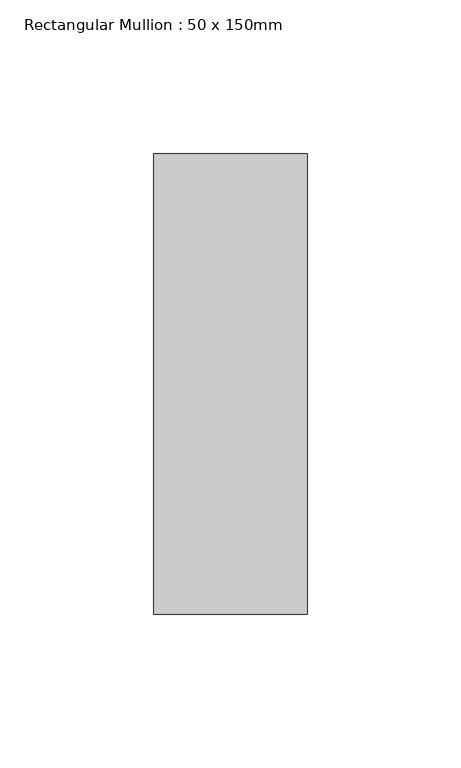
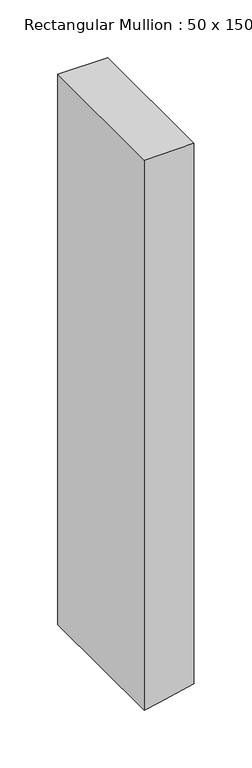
"""IFC4 building model written with IfcOpenShell, lengths in millimetres: member geometry, Rectangular Mullion : 50 x 150mm."""

from ifc_helpers import new_model, si_unit, frame, origin, place, context, project, spatial, polyline, outline, extrude, source, transform, mapped, element, save


def rectangular_mullion_50_x_150mm_be9a8604(model_context):
    return source(origin(), model_context, "Body", "SweptSolid", [
        extrude(outline(polyline([(0.0, 25.0), (0.0, -25.0), (-582.9836199, -25.0), (-579.8734451, -10.4556584), (-572.2915759, 25.0), (0.0, 25.0)])), frame((0.0, -75.0, 0.0), z_axis=(0.0, 1.0, 0.0), x_axis=(0.0, 0.0, 1.0)), (0.0, 0.0, 1.0), 150.0),
    ])


if __name__ == "__main__":
    model = new_model("IFC4")
    model_context = context("Model", 3, world=origin())
    ifc_project = project(units=[si_unit("LENGTHUNIT", "METRE", prefix="MILLI")], contexts=[model_context])
    site = spatial("IfcSite", under=ifc_project)
    building = spatial("IfcBuilding", under=site)
    placement = place(None, origin())
    rectangular_mullion_50_x_150mm_shape = rectangular_mullion_50_x_150mm_be9a8604(model_context)
    element("IfcMember", 1, ObjectType="Rectangular Mullion : 50 x 150mm", at=placement, inside=building, context=model_context, shape_type="MappedRepresentation", body=[
        mapped(rectangular_mullion_50_x_150mm_shape, transform((0.0, 0.0, 0.0), x_axis=(1.0, 0.0, 0.0), y_axis=(0.0, 1.0, 0.0), z_axis=(0.0, 0.0, 1.0))),
    ])
    save(model, "model.ifc")
